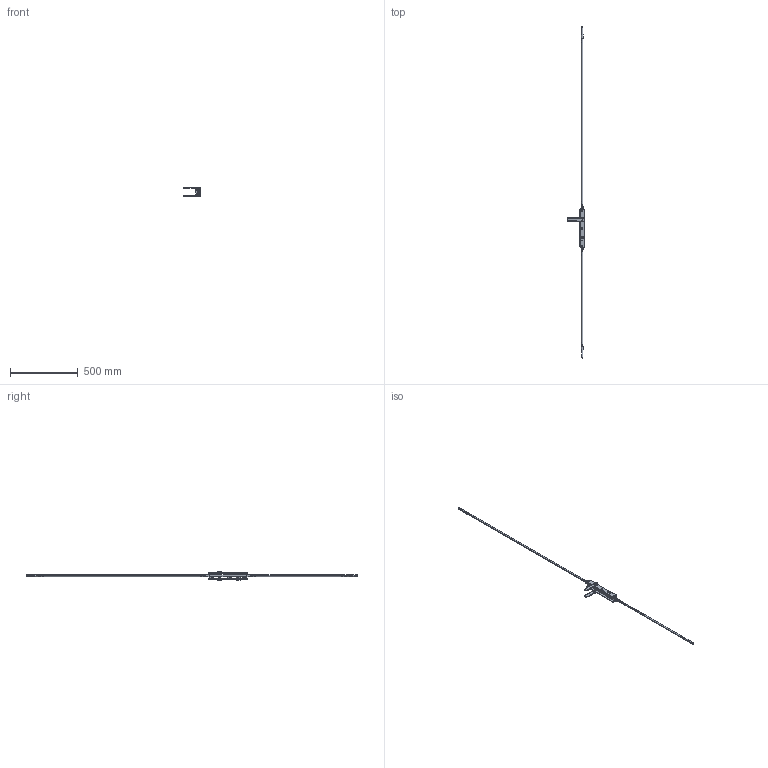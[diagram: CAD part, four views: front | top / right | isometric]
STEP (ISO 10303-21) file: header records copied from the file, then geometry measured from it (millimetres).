
FILE_DESCRIPTION (( 'STEP AP214' ), '1' );
FILE_NAME ('TPL-H-APC-105-A 17Oct2024.STEP', '2024-10-17T04:37:34', ( '' ), ( '' ), 'SwSTEP 2.0', 'SolidWorks 2023', '' );
FILE_SCHEMA (( 'AUTOMOTIVE_DESIGN' ));
Length unit declared in the file: millimetre
Products named in the file (22): Copy of LKC-532 Rod connector - simplified^TPL-H-APC-606 16Oct2024; Copy of LKC-505 Swing handle zinc - simplified^Copy of TPGen2 handle keyed external zinc - simplified_TPL-H-APC-606 16Oct2024; Copy of LKC-576 Bolt adaptor - simplified^TPL-H-APC-606 16Oct2024; Copy of LKC-505 Swing handle zinc - simplified^Copy (2) of TPGen2 handle keyed internal zinc - simplified_TPL-H-APC-606 16Oct2024; Copy of LKC-584 Pivot body zinc - simplified^Copy (2) of TPGen2 handle keyed internal zinc - simplified_TPL-H-APC-606 16Oct2024; Copy (2) of LKC-540 Transmission rod aluminium system TPLGen2^TPL-H-APC-606 16Oct2024_2885mm; Copy of LKC-514 Escutcheon plate keyed external 285mm long zinc - simplified^Copy of TPGen2 handle keyed external zinc - simplified_TPL-H-APC-606 16Oct2024; Copy of LKC-584 Pivot body zinc - simplified^Copy of TPGen2 handle keyed external zinc - simplified_TPL-H-APC-606 16Oct2024; Copy of TPGen2 handle keyed external zinc - simplified^TPL-H-APC-606 16Oct2024_Right; Copy (2) of TPLGen2 lock body keyed assembly^TPL-H-APC-606 16Oct2024_Bolts retracted - left; Copy (2) of TPGen2 handle keyed internal zinc - simplified^TPL-H-APC-606 16Oct2024_Left; Copy of TPL-H-APC-517 04Oct2024^TPL-H-APC-606 16Oct2024; Copy of LKC-585 Rotator body zinc^Copy (2) of TPGen2 handle keyed internal zinc - simplified_TPL-H-APC-606 16Oct2024; Copy of TPLGen2 lock body keyed^Copy (2) of TPLGen2 lock body keyed assembly_TPL-H-APC-606 16Oct2024_Left; Copy of LKC-586 Spindle square 8mm with M4 hole^Copy (2) of TPGen2 handle keyed internal zinc - simplified_TPL-H-APC-606 16Oct2024_38mm; Copy of LKC-540 Transmission rod aluminium system TPLGen2^TPL-H-APC-606 16Oct2024_2885mm; TPL-H-APC-105-A 17Oct2024; Copy of TPLGen2 push rod - simplified^Copy (2) of TPLGen2 lock body keyed assembly_TPL-H-APC-606 16Oct2024_Female thread M10; Copy of LKC-585 Rotator body zinc^Copy of TPGen2 handle keyed external zinc - simplified_TPL-H-APC-606 16Oct2024; Copy of TPL-036 Lock cylinder double key C4 3-5 PIN 55 (23-32)mm^TPL-H-APC-606 16Oct2024_Left; Copy of TPL-H-APC-515 04Oct2024^TPL-H-APC-606 16Oct2024; Copy of LKC-512 Escutcheon plate keyed internal 285mm long zinc - simplified^Copy (2) of TPGen2 handle keyed internal zinc - simplified_TPL-H-APC-606 16Oct2024
Assembly tree (30 placements, depth 3):
  TPL-H-APC-105-A 17Oct2024
    Copy (2) of TPLGen2 lock body keyed assembly^TPL-H-APC-606 16Oct2024_Bolts retracted - left
      Copy of TPLGen2 lock body keyed^Copy (2) of TPLGen2 lock body keyed assembly_TPL-H-APC-606 16Oct2024_Left
      Copy of TPLGen2 push rod - simplified^Copy (2) of TPLGen2 lock body keyed assembly_TPL-H-APC-606 16Oct2024_Female thread M10  x2
    Copy (2) of TPGen2 handle keyed internal zinc - simplified^TPL-H-APC-606 16Oct2024_Left
      Copy of LKC-512 Escutcheon plate keyed internal 285mm long zinc - simplified^Copy (2) of TPGen2 handle keyed internal zinc - simplified_TPL-H-APC-606 16Oct2024
      Copy of LKC-505 Swing handle zinc - simplified^Copy (2) of TPGen2 handle keyed internal zinc - simplified_TPL-H-APC-606 16Oct2024
      Copy of LKC-585 Rotator body zinc^Copy (2) of TPGen2 handle keyed internal zinc - simplified_TPL-H-APC-606 16Oct2024
      Copy of LKC-586 Spindle square 8mm with M4 hole^Copy (2) of TPGen2 handle keyed internal zinc - simplified_TPL-H-APC-606 16Oct2024_38mm
      Copy of LKC-584 Pivot body zinc - simplified^Copy (2) of TPGen2 handle keyed internal zinc - simplified_TPL-H-APC-606 16Oct2024
    Copy of TPGen2 handle keyed external zinc - simplified^TPL-H-APC-606 16Oct2024_Right
      Copy of LKC-514 Escutcheon plate keyed external 285mm long zinc - simplified^Copy of TPGen2 handle keyed external zinc - simplified_TPL-H-APC-606 16Oct2024
      Copy of LKC-505 Swing handle zinc - simplified^Copy of TPGen2 handle keyed external zinc - simplified_TPL-H-APC-606 16Oct2024
      Copy of LKC-585 Rotator body zinc^Copy of TPGen2 handle keyed external zinc - simplified_TPL-H-APC-606 16Oct2024
      Copy of LKC-584 Pivot body zinc - simplified^Copy of TPGen2 handle keyed external zinc - simplified_TPL-H-APC-606 16Oct2024
    Copy of TPL-036 Lock cylinder double key C4 3-5 PIN 55 (23-32)mm^TPL-H-APC-606 16Oct2024_Left
    Copy of LKC-532 Rod connector - simplified^TPL-H-APC-606 16Oct2024  x2
    Copy of LKC-540 Transmission rod aluminium system TPLGen2^TPL-H-APC-606 16Oct2024_2885mm
    Copy (2) of LKC-540 Transmission rod aluminium system TPLGen2^TPL-H-APC-606 16Oct2024_2885mm
    Copy of LKC-576 Bolt adaptor - simplified^TPL-H-APC-606 16Oct2024  x2
    Copy of TPL-H-APC-517 04Oct2024^TPL-H-APC-606 16Oct2024  x2
    Copy of TPL-H-APC-515 04Oct2024^TPL-H-APC-606 16Oct2024  x6
Bounding box: 125.62 x 2446 x 68.92 mm (x, y, z)
Volume: 412000 mm3; surface area: 273196.6 mm2
Topology: 27 solids, 27 shells, 2239 faces, 5416 edges, 3260 vertices
Faces by surface type: cylinder 703, plane 614, bspline 448, torus 228, cone 184, sphere 62
Entity records: 52344 total; most frequent: CARTESIAN_POINT 22924, ORIENTED_EDGE 6376, DIRECTION 5604, EDGE_CURVE 3188, AXIS2_PLACEMENT_3D 2277, VERTEX_POINT 1921, EDGE_LOOP 1489, ADVANCED_FACE 1356
